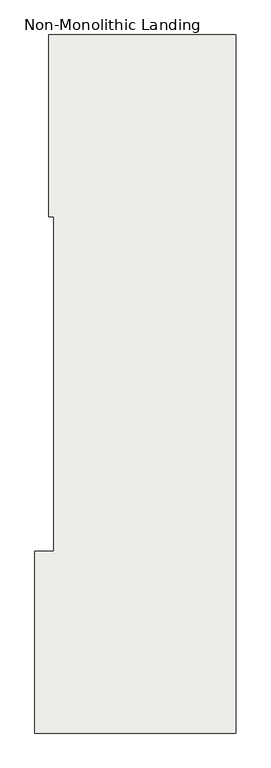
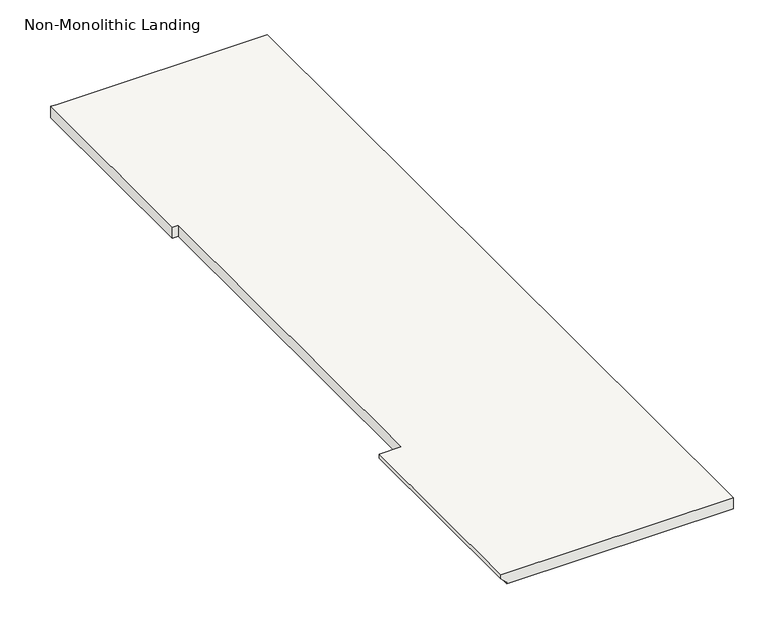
"""IFC4 building model written with IfcOpenShell, lengths in millimetres: slab geometry, Non-Monolithic Landing."""

from ifc_helpers import new_model, si_unit, origin, place, context, project, spatial, faceted_brep, source, transform, mapped, element, save


def non_monolithic_landing_d1dade7f(model_context):
    return source(origin(), model_context, "Body", "Brep", [
        faceted_brep([(19010.862245, 3674.9112109, 2635.6596774), (19010.862245, 3674.9112109, 2654.7096774), (19010.862245, 4589.3112109, 2654.7096774), (19010.862245, 4589.3112109, 2635.6596774), (19036.262245, 3674.9112109, 2610.2596774), (19036.262245, 4589.3112109, 2610.2596774), (20020.512245, 3674.9112109, 2654.7096774), (20020.512245, 7183.2862109, 2654.7096774), (19106.112245, 7183.2862109, 2654.7096774), (19080.712245, 7183.2862109, 2654.7096774), (19080.712245, 6268.8862109, 2654.7096774), (19106.112245, 6268.8862109, 2654.7096774), (19106.112245, 4589.3112109, 2654.7096774), (19036.262245, 3674.9112109, 2603.9096774), (19036.262245, 4589.3112109, 2603.9096774), (19106.112245, 4589.3112109, 2603.9096774), (19106.112245, 6268.8862109, 2603.9096774), (19080.712245, 6268.8862109, 2603.9096774), (19080.712245, 7183.2862109, 2603.9096774), (19106.112245, 7183.2862109, 2603.9096774), (20020.512245, 7183.2862109, 2603.9096774), (20020.512245, 3674.9112109, 2603.9096774)], [[[0, 1, 2, 3]], [[4, 0, 3, 5]], [[6, 7, 8, 9, 10, 11, 12, 2, 1]], [[13, 14, 15, 16, 17, 18, 19, 20, 21]], [[14, 13, 4, 5]], [[6, 1, 0, 4, 13, 21]], [[7, 6, 21, 20]], [[8, 7, 20, 19]], [[9, 8, 19, 18]], [[10, 9, 18, 17]], [[11, 10, 17, 16]], [[12, 11, 16, 15]], [[2, 12, 15, 14, 5, 3]]]),
    ])


if __name__ == "__main__":
    model = new_model("IFC4")
    model_context = context("Model", 3, world=origin())
    ifc_project = project(units=[si_unit("LENGTHUNIT", "METRE", prefix="MILLI")], contexts=[model_context])
    site = spatial("IfcSite", under=ifc_project)
    building = spatial("IfcBuilding", under=site)
    placement = place(None, origin())
    non_monolithic_landing_shape = non_monolithic_landing_d1dade7f(model_context)
    element("IfcSlab", 1, ObjectType="Non-Monolithic Landing", at=placement, inside=building, context=model_context, shape_type="MappedRepresentation", body=[
        mapped(non_monolithic_landing_shape, transform((0.0, 0.0, 0.0), x_axis=(1.0, 0.0, 0.0), y_axis=(0.0, 1.0, 0.0), z_axis=(0.0, 0.0, 1.0))),
    ])
    save(model, "model.ifc")
